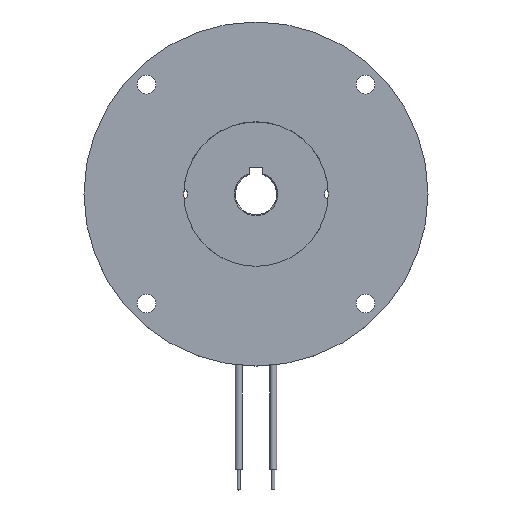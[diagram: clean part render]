
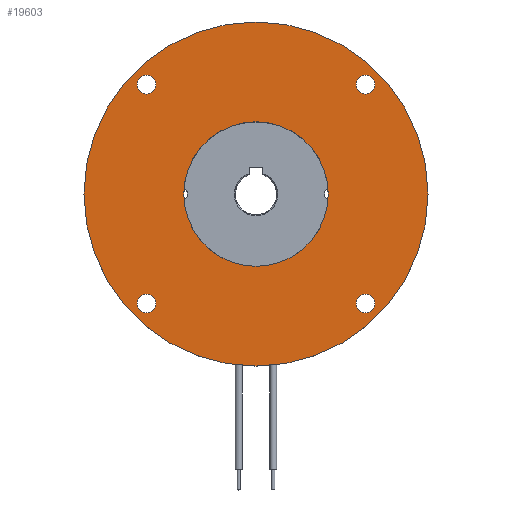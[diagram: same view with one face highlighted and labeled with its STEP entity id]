
A CAD part, top view. The second image highlights one B-rep face of the part: STEP entity #19603.
In plain terms, the highlighted planar face has unit normal (0, 0, 1).
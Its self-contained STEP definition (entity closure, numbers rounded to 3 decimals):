
#279 = ORIENTED_EDGE ( 'NONE', *, *, #13189, .T. ) ;
#386 = VERTEX_POINT ( 'NONE', #8683 ) ;
#457 = EDGE_CURVE ( 'NONE', #386, #23262, #14608, .T. ) ;
#558 = DIRECTION ( 'NONE',  ( -1., 0., 0. ) ) ;
#833 = EDGE_LOOP ( 'NONE', ( #11683, #2812 ) ) ;
#1206 = CARTESIAN_POINT ( 'NONE',  ( 0., 50., 0. ) ) ;
#1564 = VERTEX_POINT ( 'NONE', #18351 ) ;
#1672 = CARTESIAN_POINT ( 'NONE',  ( 50., 0., 0. ) ) ;
#1712 = ORIENTED_EDGE ( 'NONE', *, *, #10230, .F. ) ;
#1716 = CARTESIAN_POINT ( 'NONE',  ( -29.07, -31.82, 0. ) ) ;
#2244 = CIRCLE ( 'NONE', #5302, 2.75 ) ;
#2633 = ORIENTED_EDGE ( 'NONE', *, *, #13215, .T. ) ;
#2720 = DIRECTION ( 'NONE',  ( 0., 0., -1. ) ) ;
#2812 = ORIENTED_EDGE ( 'NONE', *, *, #7388, .T. ) ;
#2958 = DIRECTION ( 'NONE',  ( -1., 0., 0. ) ) ;
#3113 = AXIS2_PLACEMENT_3D ( 'NONE', #1206, #21000, #3469 ) ;
#3148 = EDGE_LOOP ( 'NONE', ( #279, #6198 ) ) ;
#3291 = AXIS2_PLACEMENT_3D ( 'NONE', #5986, #11554, #6099 ) ;
#3399 = CARTESIAN_POINT ( 'NONE',  ( 31.82, -31.82, 0. ) ) ;
#3469 = DIRECTION ( 'NONE',  ( -1., 0., 0. ) ) ;
#3543 = CIRCLE ( 'NONE', #9592, 2.75 ) ;
#3682 = EDGE_CURVE ( 'NONE', #14047, #12695, #17236, .T. ) ;
#3760 = VERTEX_POINT ( 'NONE', #9967 ) ;
#3965 = ORIENTED_EDGE ( 'NONE', *, *, #3682, .F. ) ;
#4146 = CARTESIAN_POINT ( 'NONE',  ( 29.07, -31.82, 0. ) ) ;
#4167 = EDGE_LOOP ( 'NONE', ( #10937, #2633 ) ) ;
#4383 = CARTESIAN_POINT ( 'NONE',  ( -31.82, 31.82, 0. ) ) ;
#4392 = AXIS2_PLACEMENT_3D ( 'NONE', #11485, #11259, #558 ) ;
#4455 = AXIS2_PLACEMENT_3D ( 'NONE', #8666, #12432, #2958 ) ;
#4819 = CIRCLE ( 'NONE', #3291, 50. ) ;
#4869 = DIRECTION ( 'NONE',  ( -1., 0., 0. ) ) ;
#4985 = CARTESIAN_POINT ( 'NONE',  ( -29.07, 31.82, 0. ) ) ;
#5295 = DIRECTION ( 'NONE',  ( 0., 0., -1. ) ) ;
#5302 = AXIS2_PLACEMENT_3D ( 'NONE', #16086, #10543, #23313 ) ;
#5670 = CIRCLE ( 'NONE', #6811, 2.75 ) ;
#5722 = EDGE_CURVE ( 'NONE', #23084, #8189, #22337, .T. ) ;
#5901 = VERTEX_POINT ( 'NONE', #1716 ) ;
#5952 = AXIS2_PLACEMENT_3D ( 'NONE', #16655, #7665, #12156 ) ;
#5986 = CARTESIAN_POINT ( 'NONE',  ( 0., 0., 0. ) ) ;
#6010 = CARTESIAN_POINT ( 'NONE',  ( 0., 0., 0. ) ) ;
#6099 = DIRECTION ( 'NONE',  ( -1., 0., 0. ) ) ;
#6198 = ORIENTED_EDGE ( 'NONE', *, *, #22948, .T. ) ;
#6811 = AXIS2_PLACEMENT_3D ( 'NONE', #4383, #2720, #9969 ) ;
#6917 = FACE_BOUND ( 'NONE', #19757, .T. ) ;
#7388 = EDGE_CURVE ( 'NONE', #5901, #10481, #16556, .T. ) ;
#7665 = DIRECTION ( 'NONE',  ( 0., 0., -1. ) ) ;
#8189 = VERTEX_POINT ( 'NONE', #4985 ) ;
#8431 = CARTESIAN_POINT ( 'NONE',  ( -31.82, -31.82, 0. ) ) ;
#8666 = CARTESIAN_POINT ( 'NONE',  ( 31.82, 31.82, 0. ) ) ;
#8682 = ORIENTED_EDGE ( 'NONE', *, *, #5722, .T. ) ;
#8683 = CARTESIAN_POINT ( 'NONE',  ( 29.07, 31.82, 0. ) ) ;
#8701 = FACE_BOUND ( 'NONE', #833, .T. ) ;
#8873 = CARTESIAN_POINT ( 'NONE',  ( 0., 0., 0. ) ) ;
#9089 = CIRCLE ( 'NONE', #21945, 21. ) ;
#9592 = AXIS2_PLACEMENT_3D ( 'NONE', #3399, #5295, #21973 ) ;
#9967 = CARTESIAN_POINT ( 'NONE',  ( -21., 0., 0. ) ) ;
#9969 = DIRECTION ( 'NONE',  ( -1., 0., 0. ) ) ;
#10230 = EDGE_CURVE ( 'NONE', #12695, #14047, #4819, .T. ) ;
#10269 = VERTEX_POINT ( 'NONE', #16528 ) ;
#10286 = DIRECTION ( 'NONE',  ( 0., 0., -1. ) ) ;
#10481 = VERTEX_POINT ( 'NONE', #21950 ) ;
#10526 = EDGE_LOOP ( 'NONE', ( #17695, #22477 ) ) ;
#10543 = DIRECTION ( 'NONE',  ( 0., 0., -1. ) ) ;
#10719 = VERTEX_POINT ( 'NONE', #4146 ) ;
#10787 = EDGE_CURVE ( 'NONE', #23262, #386, #14663, .T. ) ;
#10937 = ORIENTED_EDGE ( 'NONE', *, *, #23374, .T. ) ;
#11083 = CIRCLE ( 'NONE', #12596, 21. ) ;
#11259 = DIRECTION ( 'NONE',  ( 0., 0., -1. ) ) ;
#11485 = CARTESIAN_POINT ( 'NONE',  ( 31.82, 31.82, 0. ) ) ;
#11496 = CARTESIAN_POINT ( 'NONE',  ( 0., 0., 0. ) ) ;
#11554 = DIRECTION ( 'NONE',  ( 0., 0., -1. ) ) ;
#11683 = ORIENTED_EDGE ( 'NONE', *, *, #19771, .T. ) ;
#11762 = AXIS2_PLACEMENT_3D ( 'NONE', #17256, #10286, #17147 ) ;
#12089 = EDGE_CURVE ( 'NONE', #8189, #23084, #5670, .T. ) ;
#12156 = DIRECTION ( 'NONE',  ( -1., 0., 0. ) ) ;
#12432 = DIRECTION ( 'NONE',  ( 0., 0., -1. ) ) ;
#12596 = AXIS2_PLACEMENT_3D ( 'NONE', #6010, #22113, #13105 ) ;
#12695 = VERTEX_POINT ( 'NONE', #1672 ) ;
#12912 = DIRECTION ( 'NONE',  ( 0., 0., -1. ) ) ;
#13105 = DIRECTION ( 'NONE',  ( -1., 0., 0. ) ) ;
#13189 = EDGE_CURVE ( 'NONE', #3760, #1564, #9089, .T. ) ;
#13215 = EDGE_CURVE ( 'NONE', #10269, #10719, #2244, .T. ) ;
#14047 = VERTEX_POINT ( 'NONE', #17395 ) ;
#14237 = PLANE ( 'NONE',  #3113 ) ;
#14608 = CIRCLE ( 'NONE', #4392, 2.75 ) ;
#14663 = CIRCLE ( 'NONE', #4455, 2.75 ) ;
#15616 = DIRECTION ( 'NONE',  ( 0., 0., -1. ) ) ;
#15645 = DIRECTION ( 'NONE',  ( 0., 0., -1. ) ) ;
#16027 = FACE_BOUND ( 'NONE', #10526, .T. ) ;
#16086 = CARTESIAN_POINT ( 'NONE',  ( 31.82, -31.82, 0. ) ) ;
#16528 = CARTESIAN_POINT ( 'NONE',  ( 34.57, -31.82, 0. ) ) ;
#16556 = CIRCLE ( 'NONE', #5952, 2.75 ) ;
#16655 = CARTESIAN_POINT ( 'NONE',  ( -31.82, -31.82, 0. ) ) ;
#16937 = DIRECTION ( 'NONE',  ( -1., 0., 0. ) ) ;
#17147 = DIRECTION ( 'NONE',  ( -1., 0., 0. ) ) ;
#17236 = CIRCLE ( 'NONE', #20267, 50. ) ;
#17256 = CARTESIAN_POINT ( 'NONE',  ( -31.82, 31.82, 0. ) ) ;
#17395 = CARTESIAN_POINT ( 'NONE',  ( -50., 0., 0. ) ) ;
#17512 = DIRECTION ( 'NONE',  ( -1., 0., 0. ) ) ;
#17695 = ORIENTED_EDGE ( 'NONE', *, *, #457, .T. ) ;
#17865 = CIRCLE ( 'NONE', #20878, 2.75 ) ;
#18351 = CARTESIAN_POINT ( 'NONE',  ( 21., 0., 0. ) ) ;
#18777 = CARTESIAN_POINT ( 'NONE',  ( -34.57, 31.82, 0. ) ) ;
#19603 = ADVANCED_FACE ( 'NONE', ( #16027, #23259, #8701, #6917, #21119, #23145 ), #14237, .F. ) ;
#19757 = EDGE_LOOP ( 'NONE', ( #8682, #20100 ) ) ;
#19771 = EDGE_CURVE ( 'NONE', #10481, #5901, #17865, .T. ) ;
#20100 = ORIENTED_EDGE ( 'NONE', *, *, #12089, .T. ) ;
#20267 = AXIS2_PLACEMENT_3D ( 'NONE', #11496, #12912, #16937 ) ;
#20878 = AXIS2_PLACEMENT_3D ( 'NONE', #8431, #15645, #4869 ) ;
#21000 = DIRECTION ( 'NONE',  ( 0., 0., -1. ) ) ;
#21119 = FACE_OUTER_BOUND ( 'NONE', #22930, .T. ) ;
#21396 = CARTESIAN_POINT ( 'NONE',  ( 34.57, 31.82, 0. ) ) ;
#21945 = AXIS2_PLACEMENT_3D ( 'NONE', #8873, #15616, #17512 ) ;
#21950 = CARTESIAN_POINT ( 'NONE',  ( -34.57, -31.82, 0. ) ) ;
#21973 = DIRECTION ( 'NONE',  ( -1., 0., 0. ) ) ;
#22113 = DIRECTION ( 'NONE',  ( 0., 0., -1. ) ) ;
#22337 = CIRCLE ( 'NONE', #11762, 2.75 ) ;
#22477 = ORIENTED_EDGE ( 'NONE', *, *, #10787, .T. ) ;
#22930 = EDGE_LOOP ( 'NONE', ( #3965, #1712 ) ) ;
#22948 = EDGE_CURVE ( 'NONE', #1564, #3760, #11083, .T. ) ;
#23084 = VERTEX_POINT ( 'NONE', #18777 ) ;
#23145 = FACE_BOUND ( 'NONE', #3148, .T. ) ;
#23259 = FACE_BOUND ( 'NONE', #4167, .T. ) ;
#23262 = VERTEX_POINT ( 'NONE', #21396 ) ;
#23313 = DIRECTION ( 'NONE',  ( -1., 0., 0. ) ) ;
#23374 = EDGE_CURVE ( 'NONE', #10719, #10269, #3543, .T. ) ;
